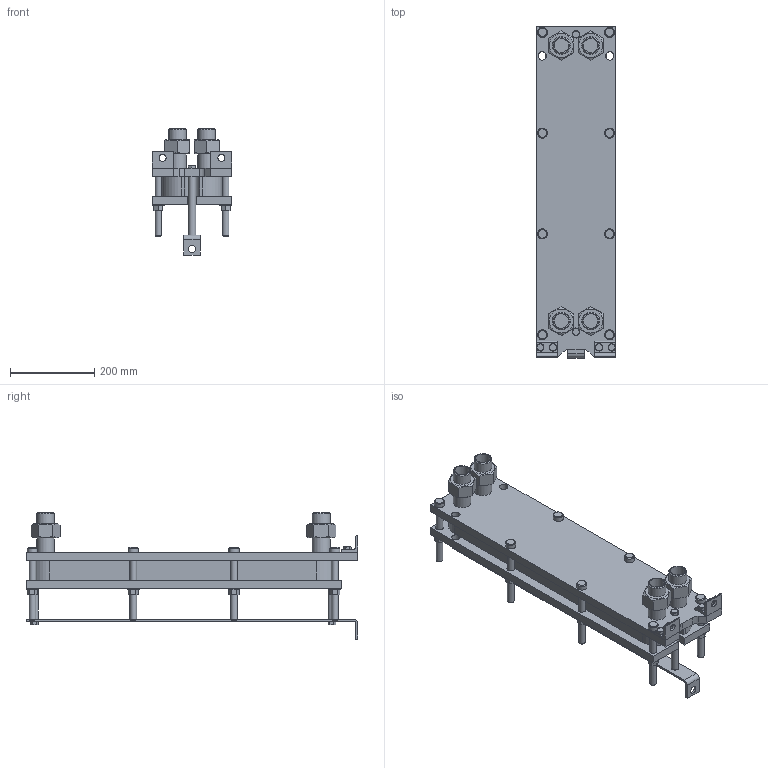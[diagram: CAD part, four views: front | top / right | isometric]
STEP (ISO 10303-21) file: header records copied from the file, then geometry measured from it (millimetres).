
FILE_DESCRIPTION(/* description */ (''),/* implementation_level */ '2;1');
FILE_NAME(/* name */ 'C:\Users\zhuro\Desktop\ENCO\TO\ЭН-008\ЭН-0,5-008-15-1.stp',/* time_stamp */ '2022-06-06T10:46:05+03:00',/* author */ ('zhuro'),/* organization */ (''),/* preprocessor_version */ 'ST-DEVELOPER v18.1',/* originating_system */ 'Autodesk Inventor 2022',/* authorisation */ '');
FILE_SCHEMA (('AUTOMOTIVE_DESIGN { 1 0 10303 214 3 1 1 }'));
Length unit declared in the file: millimetre
Products named in the file (1): ЭН-0,5-008-15-1
Bounding box: 190 x 790 x 301 mm (x, y, z)
Volume: 11352754.2 mm3; surface area: 1302524.2 mm2
Topology: 40 solids, 40 shells, 428 faces, 924 edges, 606 vertices
Faces by surface type: plane 273, cylinder 109, cone 40, torus 6
Full cylindrical faces by diameter (mm): 12 x6, 14 x2, 16 x20, 17 x8, 18 x19, 20 x5, 24 x8, 28 x8, 34.3 x8, 42.3 x8
Entity records: 15843 total; most frequent: CARTESIAN_POINT 5991, DIRECTION 1984, ORIENTED_EDGE 1848, EDGE_CURVE 924, AXIS2_PLACEMENT_3D 715, VERTEX_POINT 606, LINE 554, VECTOR 554
